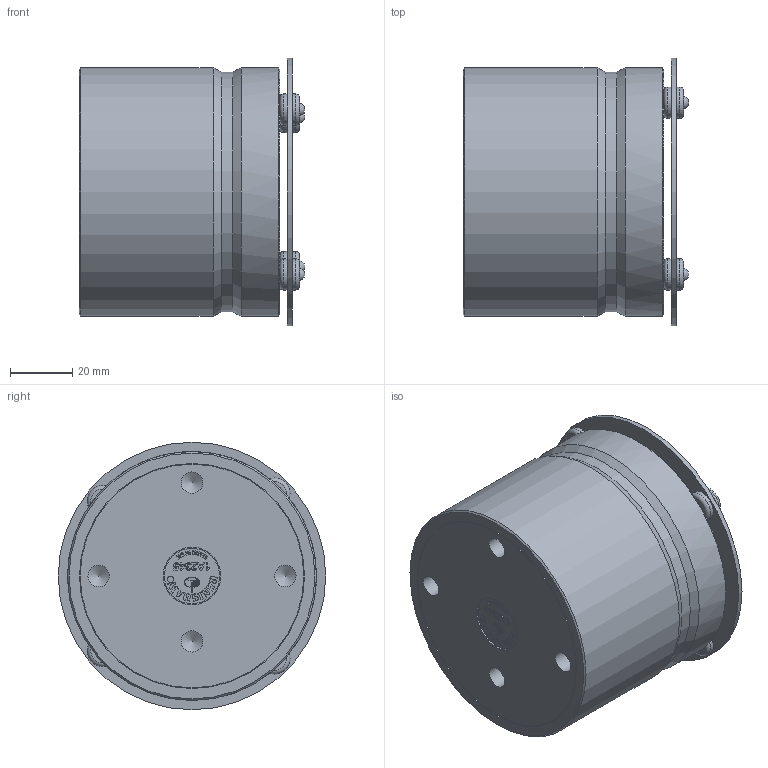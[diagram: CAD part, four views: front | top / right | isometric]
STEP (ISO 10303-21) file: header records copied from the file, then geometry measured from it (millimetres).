
FILE_DESCRIPTION(/* description */ (''),/* implementation_level */ '2;1');
FILE_NAME(/* name */ 'LA-8003-2061.stp',/* time_stamp */ '2012-05-14T10:49:54+01:00',/* author */ (''),/* organization */ (''),/* preprocessor_version */ 'ST-DEVELOPER v11',/* originating_system */ 'SIEMENS PLM Software NX 7.5',/* authorisation */ '');
FILE_SCHEMA (('AP203_CONFIGURATION_CONTROLLED_3D_DESIGN_OF_MECHANICAL_PARTS_AND_ASSEMBLIES_MIM_LF'));
Length unit declared in the file: millimetre
Products named in the file (1): js1383A906d4
Bounding box: 72.49 x 86 x 86 mm (x, y, z)
Volume: 325916.6 mm3; surface area: 41318.1 mm2
Topology: 2 solids, 3 shells, 525 faces, 1400 edges, 928 vertices
Faces by surface type: plane 364, extrusion 98, cylinder 43, torus 8, cone 8, sphere 4
Full cylindrical faces by diameter (mm): 2 x1, 4 x8, 6.4 x4, 6.9 x4, 10 x8, 17.8 x1, 18.5 x1, 64 x1, 71.9 x1, 72.3 x1, 77 x1, 80 x2, 86 x1
Entity records: 19629 total; most frequent: CARTESIAN_POINT 3458, ORIENTED_EDGE 2622, DIRECTION 2168, EDGE_CURVE 1311, VECTOR 1114, LINE 1016, VERTEX_POINT 901, EDGE_LOOP 638
